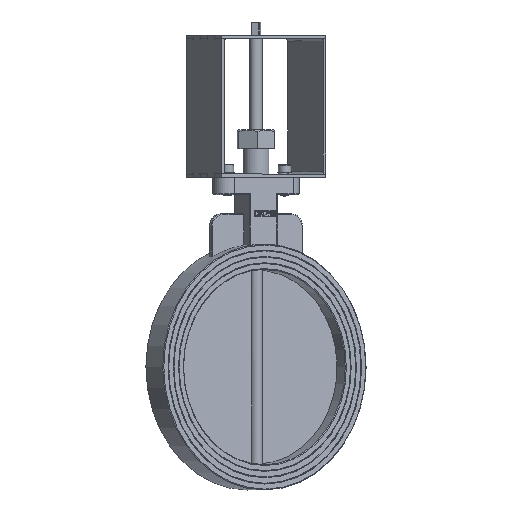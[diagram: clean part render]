
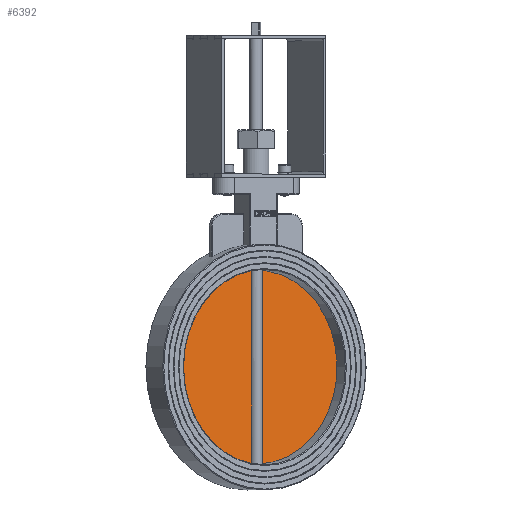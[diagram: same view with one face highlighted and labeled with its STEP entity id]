
A CAD part, top view. The second image highlights one B-rep face of the part: STEP entity #6392.
In plain terms, the highlighted planar face has unit normal (0.562, 0, 0.827) as drawn and (0, -1, 0) by its records, which use the part's own axes.
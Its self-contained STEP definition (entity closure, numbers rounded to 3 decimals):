
#1977=FACE_OUTER_BOUND($,#2486,.T.);
#2486=EDGE_LOOP($,(#5823));
#2704=CIRCLE($,#6993,123.);
#3294=VERTEX_POINT($,#11277);
#4137=EDGE_CURVE($,#3294,#3294,#2704,.T.);
#5823=ORIENTED_EDGE($,*,*,#4137,.F.);
#6019=PLANE($,#6995);
#6392=ADVANCED_FACE($,(#1977),#6019,.F.);
#6993=AXIS2_PLACEMENT_3D($,#11278,#8625,#8626);
#6995=AXIS2_PLACEMENT_3D($,#11280,#8629,#8630);
#8625=DIRECTION('center_axis',(0.,1.,0.));
#8626=DIRECTION('ref_axis',(-1.,0.,0.));
#8629=DIRECTION('center_axis',(0.,1.,0.));
#8630=DIRECTION('ref_axis',(0.,0.,1.));
#11277=CARTESIAN_POINT('',(-123.,0.,0.));
#11278=CARTESIAN_POINT('Origin',(0.,0.,0.));
#11280=CARTESIAN_POINT('Origin',(0.,0.,0.));
